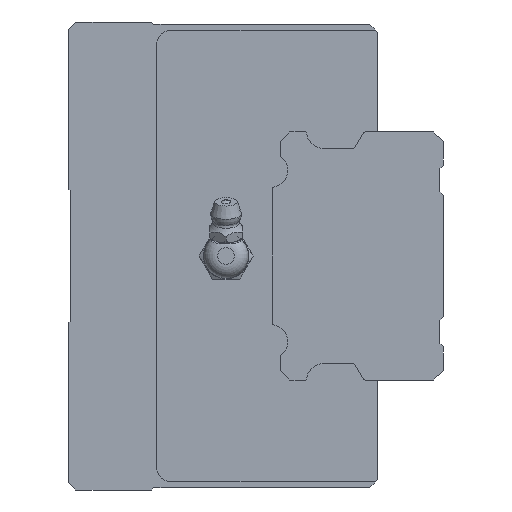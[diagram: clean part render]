
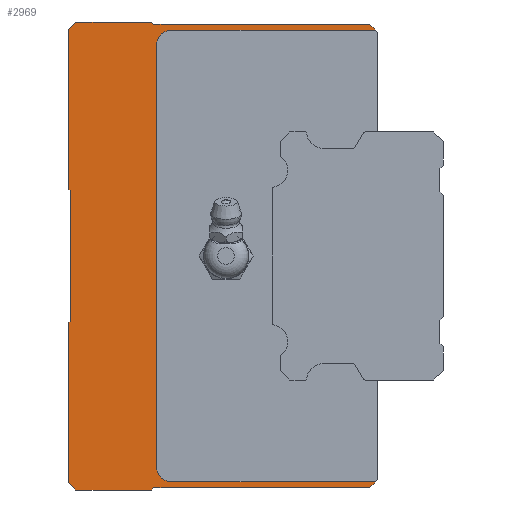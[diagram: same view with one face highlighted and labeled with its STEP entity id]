
A CAD part, left-side view. The second image highlights one B-rep face of the part: STEP entity #2969.
In plain terms, the highlighted planar face has unit normal (-1, 0, 0).
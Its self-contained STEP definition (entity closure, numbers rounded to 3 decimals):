
#191=CIRCLE('',#3284,3.);
#192=CIRCLE('',#3285,3.);
#745=ORIENTED_EDGE('',*,*,#1372,.F.);
#746=ORIENTED_EDGE('',*,*,#1236,.F.);
#747=ORIENTED_EDGE('',*,*,#1330,.F.);
#748=ORIENTED_EDGE('',*,*,#1327,.F.);
#749=ORIENTED_EDGE('',*,*,#1324,.F.);
#750=ORIENTED_EDGE('',*,*,#1321,.F.);
#751=ORIENTED_EDGE('',*,*,#1317,.F.);
#752=ORIENTED_EDGE('',*,*,#1363,.F.);
#753=ORIENTED_EDGE('',*,*,#1358,.F.);
#754=ORIENTED_EDGE('',*,*,#1355,.F.);
#755=ORIENTED_EDGE('',*,*,#1352,.F.);
#756=ORIENTED_EDGE('',*,*,#1349,.F.);
#757=ORIENTED_EDGE('',*,*,#1344,.F.);
#758=ORIENTED_EDGE('',*,*,#1341,.F.);
#759=ORIENTED_EDGE('',*,*,#1338,.F.);
#760=ORIENTED_EDGE('',*,*,#1335,.F.);
#761=ORIENTED_EDGE('',*,*,#1332,.F.);
#762=ORIENTED_EDGE('',*,*,#1242,.F.);
#763=ORIENTED_EDGE('',*,*,#1373,.F.);
#764=ORIENTED_EDGE('',*,*,#1374,.F.);
#765=ORIENTED_EDGE('',*,*,#1375,.F.);
#766=ORIENTED_EDGE('',*,*,#1376,.F.);
#767=ORIENTED_EDGE('',*,*,#1377,.F.);
#768=ORIENTED_EDGE('',*,*,#1378,.F.);
#1236=EDGE_CURVE('',#1601,#1602,#1879,.T.);
#1242=EDGE_CURVE('',#1607,#1608,#1885,.T.);
#1317=EDGE_CURVE('',#1678,#1679,#1926,.T.);
#1321=EDGE_CURVE('',#1679,#1682,#1930,.T.);
#1324=EDGE_CURVE('',#1682,#1684,#1933,.T.);
#1327=EDGE_CURVE('',#1684,#1686,#1936,.T.);
#1330=EDGE_CURVE('',#1686,#1601,#1939,.T.);
#1332=EDGE_CURVE('',#1608,#1688,#1941,.T.);
#1335=EDGE_CURVE('',#1688,#1690,#1944,.T.);
#1338=EDGE_CURVE('',#1690,#1692,#1947,.T.);
#1341=EDGE_CURVE('',#1692,#1694,#1950,.T.);
#1344=EDGE_CURVE('',#1694,#1696,#1953,.T.);
#1349=EDGE_CURVE('',#1696,#1700,#1956,.T.);
#1352=EDGE_CURVE('',#1700,#1702,#1959,.T.);
#1355=EDGE_CURVE('',#1702,#1704,#1962,.T.);
#1358=EDGE_CURVE('',#1704,#1706,#1965,.T.);
#1363=EDGE_CURVE('',#1706,#1678,#1968,.T.);
#1372=EDGE_CURVE('',#1602,#1716,#1975,.T.);
#1373=EDGE_CURVE('',#1717,#1607,#1976,.T.);
#1374=EDGE_CURVE('',#1718,#1717,#1977,.T.);
#1375=EDGE_CURVE('',#1719,#1718,#191,.F.);
#1376=EDGE_CURVE('',#1720,#1719,#1978,.T.);
#1377=EDGE_CURVE('',#1721,#1720,#192,.F.);
#1378=EDGE_CURVE('',#1716,#1721,#1979,.T.);
#1601=VERTEX_POINT('',#4620);
#1602=VERTEX_POINT('',#4622);
#1607=VERTEX_POINT('',#4633);
#1608=VERTEX_POINT('',#4635);
#1678=VERTEX_POINT('',#4783);
#1679=VERTEX_POINT('',#4784);
#1682=VERTEX_POINT('',#4792);
#1684=VERTEX_POINT('',#4798);
#1686=VERTEX_POINT('',#4804);
#1688=VERTEX_POINT('',#4813);
#1690=VERTEX_POINT('',#4819);
#1692=VERTEX_POINT('',#4825);
#1694=VERTEX_POINT('',#4831);
#1696=VERTEX_POINT('',#4837);
#1700=VERTEX_POINT('',#4847);
#1702=VERTEX_POINT('',#4853);
#1704=VERTEX_POINT('',#4859);
#1706=VERTEX_POINT('',#4865);
#1716=VERTEX_POINT('',#4892);
#1717=VERTEX_POINT('',#4894);
#1718=VERTEX_POINT('',#4896);
#1719=VERTEX_POINT('',#4898);
#1720=VERTEX_POINT('',#4900);
#1721=VERTEX_POINT('',#4902);
#1879=LINE('',#4621,#2121);
#1885=LINE('',#4634,#2127);
#1926=LINE('',#4782,#2168);
#1930=LINE('',#4791,#2172);
#1933=LINE('',#4797,#2175);
#1936=LINE('',#4803,#2178);
#1939=LINE('',#4809,#2181);
#1941=LINE('',#4812,#2183);
#1944=LINE('',#4818,#2186);
#1947=LINE('',#4824,#2189);
#1950=LINE('',#4830,#2192);
#1953=LINE('',#4836,#2195);
#1956=LINE('',#4846,#2198);
#1959=LINE('',#4852,#2201);
#1962=LINE('',#4858,#2204);
#1965=LINE('',#4864,#2207);
#1968=LINE('',#4874,#2210);
#1975=LINE('',#4891,#2217);
#1976=LINE('',#4893,#2218);
#1977=LINE('',#4895,#2219);
#1978=LINE('',#4899,#2220);
#1979=LINE('',#4903,#2221);
#2121=VECTOR('',#3753,1000.);
#2127=VECTOR('',#3761,1000.);
#2168=VECTOR('',#3876,1000.);
#2172=VECTOR('',#3882,1000.);
#2175=VECTOR('',#3887,1000.);
#2178=VECTOR('',#3892,1000.);
#2181=VECTOR('',#3897,1000.);
#2183=VECTOR('',#3901,1000.);
#2186=VECTOR('',#3906,1000.);
#2189=VECTOR('',#3911,1000.);
#2192=VECTOR('',#3916,1000.);
#2195=VECTOR('',#3921,1000.);
#2198=VECTOR('',#3930,1000.);
#2201=VECTOR('',#3935,1000.);
#2204=VECTOR('',#3940,1000.);
#2207=VECTOR('',#3945,1000.);
#2210=VECTOR('',#3954,1000.);
#2217=VECTOR('',#3969,1000.);
#2218=VECTOR('',#3970,1000.);
#2219=VECTOR('',#3971,1000.);
#2220=VECTOR('',#3974,1000.);
#2221=VECTOR('',#3977,1000.);
#2394=EDGE_LOOP('',(#745,#746,#747,#748,#749,#750,#751,#752,#753,#754,#755,
#756,#757,#758,#759,#760,#761,#762,#763,#764,#765,#766,#767,#768));
#2649=FACE_BOUND('',#2394,.T.);
#2841=PLANE('',#3283);
#2969=ADVANCED_FACE('',(#2649),#2841,.F.);
#3283=AXIS2_PLACEMENT_3D('',#4890,#3967,#3968);
#3284=AXIS2_PLACEMENT_3D('',#4897,#3972,#3973);
#3285=AXIS2_PLACEMENT_3D('',#4901,#3975,#3976);
#3753=DIRECTION('',(0.,0.,-1.));
#3761=DIRECTION('',(0.,0.,-1.));
#3876=DIRECTION('',(0.,-0.707,0.707));
#3882=DIRECTION('',(0.,-1.,0.));
#3887=DIRECTION('',(0.,-0.707,-0.707));
#3892=DIRECTION('',(0.,-1.,0.));
#3897=DIRECTION('',(0.,-0.707,-0.707));
#3901=DIRECTION('',(0.,0.707,-0.707));
#3906=DIRECTION('',(0.,1.,0.));
#3911=DIRECTION('',(0.,0.707,-0.707));
#3916=DIRECTION('',(0.,1.,0.));
#3921=DIRECTION('',(0.,0.707,0.707));
#3930=DIRECTION('',(0.,0.,1.));
#3935=DIRECTION('',(0.,-0.707,0.707));
#3940=DIRECTION('',(0.,0.,1.));
#3945=DIRECTION('',(0.,0.707,0.707));
#3954=DIRECTION('',(0.,0.,1.));
#3967=DIRECTION('',(1.,0.,0.));
#3968=DIRECTION('',(0.,0.,-1.));
#3969=DIRECTION('',(0.,0.707,0.707));
#3970=DIRECTION('',(0.,-0.707,0.707));
#3971=DIRECTION('',(0.,-1.,0.));
#3972=DIRECTION('',(1.,0.,0.));
#3973=DIRECTION('',(0.,0.,-1.));
#3974=DIRECTION('',(0.,0.,-1.));
#3975=DIRECTION('',(1.,0.,0.));
#3976=DIRECTION('',(0.,0.,-1.));
#3977=DIRECTION('',(0.,1.,0.));
#4620=CARTESIAN_POINT('',(-80.4,0.,47.8));
#4621=CARTESIAN_POINT('',(-80.4,0.,47.8));
#4622=CARTESIAN_POINT('',(-80.4,0.,47.7));
#4633=CARTESIAN_POINT('',(-80.4,0.,-47.7));
#4634=CARTESIAN_POINT('',(-80.4,0.,47.8));
#4635=CARTESIAN_POINT('',(-80.4,0.,-47.8));
#4782=CARTESIAN_POINT('',(-80.4,66.,48.5));
#4783=CARTESIAN_POINT('',(-80.4,66.,48.5));
#4784=CARTESIAN_POINT('',(-80.4,64.5,50.));
#4791=CARTESIAN_POINT('',(-80.4,64.5,50.));
#4792=CARTESIAN_POINT('',(-80.4,48.3,50.));
#4797=CARTESIAN_POINT('',(-80.4,48.3,50.));
#4798=CARTESIAN_POINT('',(-80.4,47.8,49.5));
#4803=CARTESIAN_POINT('',(-80.4,47.8,49.5));
#4804=CARTESIAN_POINT('',(-80.4,1.7,49.5));
#4809=CARTESIAN_POINT('',(-80.4,1.7,49.5));
#4812=CARTESIAN_POINT('',(-80.4,0.,-47.8));
#4813=CARTESIAN_POINT('',(-80.4,1.7,-49.5));
#4818=CARTESIAN_POINT('',(-80.4,1.7,-49.5));
#4819=CARTESIAN_POINT('',(-80.4,47.8,-49.5));
#4824=CARTESIAN_POINT('',(-80.4,47.8,-49.5));
#4825=CARTESIAN_POINT('',(-80.4,48.3,-50.));
#4830=CARTESIAN_POINT('',(-80.4,48.3,-50.));
#4831=CARTESIAN_POINT('',(-80.4,64.5,-50.));
#4836=CARTESIAN_POINT('',(-80.4,64.5,-50.));
#4837=CARTESIAN_POINT('',(-80.4,66.,-48.5));
#4846=CARTESIAN_POINT('',(-80.4,66.,-48.5));
#4847=CARTESIAN_POINT('',(-80.4,66.,-14.3));
#4852=CARTESIAN_POINT('',(-80.4,66.,-14.3));
#4853=CARTESIAN_POINT('',(-80.4,65.7,-14.));
#4858=CARTESIAN_POINT('',(-80.4,65.7,-14.));
#4859=CARTESIAN_POINT('',(-80.4,65.7,14.));
#4864=CARTESIAN_POINT('',(-80.4,65.7,14.));
#4865=CARTESIAN_POINT('',(-80.4,66.,14.3));
#4874=CARTESIAN_POINT('',(-80.4,66.,14.3));
#4890=CARTESIAN_POINT('',(-80.4,0.,0.));
#4891=CARTESIAN_POINT('',(-80.4,-23.85,23.85));
#4892=CARTESIAN_POINT('',(-80.4,0.5,48.2));
#4893=CARTESIAN_POINT('',(-80.4,-23.85,-23.85));
#4894=CARTESIAN_POINT('',(-80.4,0.5,-48.2));
#4895=CARTESIAN_POINT('',(-80.4,0.,-48.2));
#4896=CARTESIAN_POINT('',(-80.4,44.2,-48.2));
#4897=CARTESIAN_POINT('',(-80.4,44.2,-45.2));
#4898=CARTESIAN_POINT('',(-80.4,47.2,-45.2));
#4899=CARTESIAN_POINT('',(-80.4,47.2,0.));
#4900=CARTESIAN_POINT('',(-80.4,47.2,45.2));
#4901=CARTESIAN_POINT('',(-80.4,44.2,45.2));
#4902=CARTESIAN_POINT('',(-80.4,44.2,48.2));
#4903=CARTESIAN_POINT('',(-80.4,0.,48.2));
